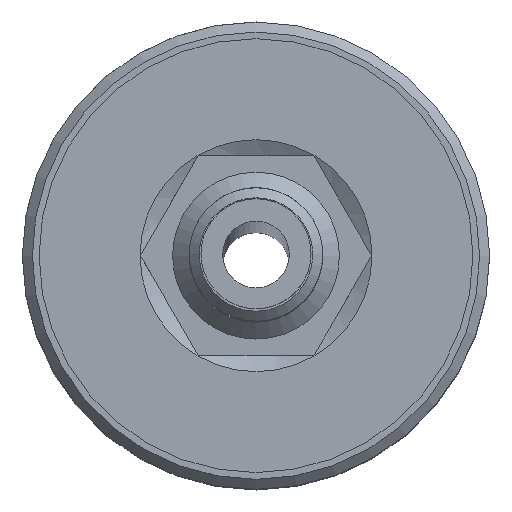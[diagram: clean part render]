
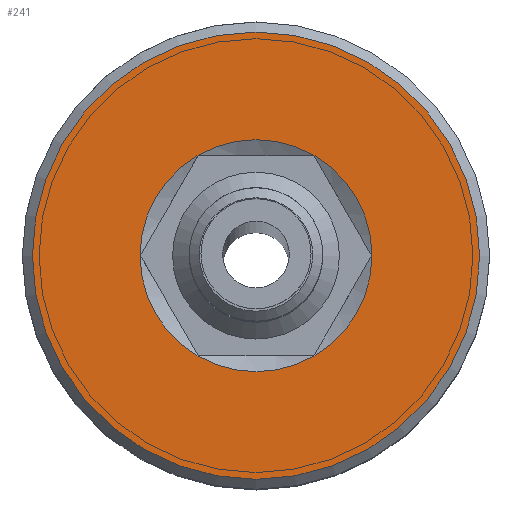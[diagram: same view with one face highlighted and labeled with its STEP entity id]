
A CAD part, top view. The second image highlights one B-rep face of the part: STEP entity #241.
In plain terms, the highlighted planar face has unit normal (0, 0, 1).
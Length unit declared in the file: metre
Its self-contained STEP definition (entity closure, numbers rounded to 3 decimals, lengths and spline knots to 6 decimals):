
#241=ADVANCED_FACE('',(#550,#551),#552,.F.);
#257=EDGE_CURVE('',#575,#575,#576,.T.);
#311=EDGE_CURVE('',#651,#651,#652,.T.);
#550=FACE_BOUND('',#950,.T.);
#551=FACE_OUTER_BOUND('',#951,.T.);
#552=PLANE('',#952);
#575=VERTEX_POINT('',#1048);
#576=CIRCLE('',#1049,0.003475);
#651=VERTEX_POINT('',#1162);
#652=CIRCLE('',#1163,0.0067);
#950=EDGE_LOOP('',(#1541));
#951=EDGE_LOOP('',(#1542));
#952=AXIS2_PLACEMENT_3D('',#1543,#1544,#1545);
#1048=CARTESIAN_POINT('',(0.003475,0.,-0.001));
#1049=AXIS2_PLACEMENT_3D('',#1554,#1555,#1556);
#1162=CARTESIAN_POINT('',(0.0,0.0067,-0.001));
#1163=AXIS2_PLACEMENT_3D('',#1613,#1614,#1615);
#1541=ORIENTED_EDGE('',*,*,#257,.F.);
#1542=ORIENTED_EDGE('',*,*,#311,.T.);
#1543=CARTESIAN_POINT('',(-0.00255,0.,-0.001));
#1544=DIRECTION('',(0.0,0.,-1.0));
#1545=DIRECTION('',(0.0,-1.0,0.));
#1554=CARTESIAN_POINT('',(0.0,0.,-0.001));
#1555=DIRECTION('',(0.0,0.0,1.0));
#1556=DIRECTION('',(1.0,0.0,0.0));
#1613=CARTESIAN_POINT('',(0.0,0.,-0.001));
#1614=DIRECTION('',(0.0,0.,1.0));
#1615=DIRECTION('',(0.0,1.0,0.));
